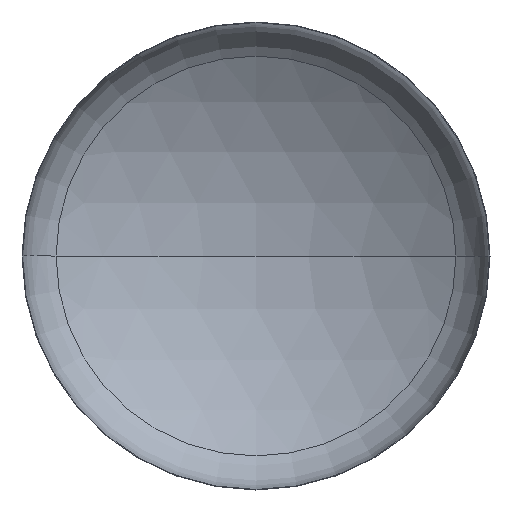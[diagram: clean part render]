
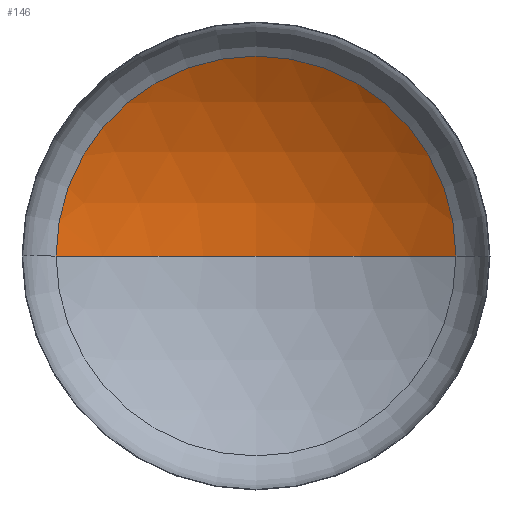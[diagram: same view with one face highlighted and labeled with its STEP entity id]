
A CAD part, front view. The second image highlights one B-rep face of the part: STEP entity #146.
In plain terms, the highlighted spherical face has radius 3040 mm.
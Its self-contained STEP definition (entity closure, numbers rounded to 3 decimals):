
#16 = EDGE_LOOP ( 'NONE', ( #34, #30, #115 ) ) ;
#24 = AXIS2_PLACEMENT_3D ( 'NONE', #267, #56, #216 ) ;
#30 = ORIENTED_EDGE ( 'NONE', *, *, #357, .T. ) ;
#34 = ORIENTED_EDGE ( 'NONE', *, *, #390, .F. ) ;
#35 = AXIS2_PLACEMENT_3D ( 'NONE', #194, #367, #369 ) ;
#56 = DIRECTION ( 'NONE',  ( 0., 0., -1. ) ) ;
#85 = AXIS2_PLACEMENT_3D ( 'NONE', #289, #191, #364 ) ;
#98 = VERTEX_POINT ( 'NONE', #279 ) ;
#115 = ORIENTED_EDGE ( 'NONE', *, *, #354, .T. ) ;
#120 = VERTEX_POINT ( 'NONE', #228 ) ;
#125 = CIRCLE ( 'NONE', #223, 3040. ) ;
#146 = ADVANCED_FACE ( 'NONE', ( #315 ), #308, .F. ) ;
#151 = VERTEX_POINT ( 'NONE', #213 ) ;
#153 = CIRCLE ( 'NONE', #35, 1623.397 ) ;
#191 = DIRECTION ( 'NONE',  ( 0., 0., -1. ) ) ;
#194 = CARTESIAN_POINT ( 'NONE',  ( 0., 514.604, 0. ) ) ;
#213 = CARTESIAN_POINT ( 'NONE',  ( -1623.397, 514.604, 0. ) ) ;
#216 = DIRECTION ( 'NONE',  ( -1., 0., 0. ) ) ;
#222 = DIRECTION ( 'NONE',  ( 0., 0., 1. ) ) ;
#223 = AXIS2_PLACEMENT_3D ( 'NONE', #370, #222, #387 ) ;
#228 = CARTESIAN_POINT ( 'NONE',  ( 1623.397, 514.604, 0. ) ) ;
#267 = CARTESIAN_POINT ( 'NONE',  ( 0., -2055.645, 0. ) ) ;
#279 = CARTESIAN_POINT ( 'NONE',  ( 0., 984.355, 0. ) ) ;
#289 = CARTESIAN_POINT ( 'NONE',  ( 0., -2055.645, 0. ) ) ;
#308 = SPHERICAL_SURFACE ( 'NONE', #85, 3040. ) ;
#315 = FACE_OUTER_BOUND ( 'NONE', #16, .T. ) ;
#354 = EDGE_CURVE ( 'NONE', #120, #151, #153, .T. ) ;
#357 = EDGE_CURVE ( 'NONE', #98, #120, #394, .T. ) ;
#364 = DIRECTION ( 'NONE',  ( -1., 0., 0. ) ) ;
#367 = DIRECTION ( 'NONE',  ( 0., -1., 0. ) ) ;
#369 = DIRECTION ( 'NONE',  ( 1., 0., 0. ) ) ;
#370 = CARTESIAN_POINT ( 'NONE',  ( 0., -2055.645, 0. ) ) ;
#387 = DIRECTION ( 'NONE',  ( 1., 0., 0. ) ) ;
#390 = EDGE_CURVE ( 'NONE', #98, #151, #125, .T. ) ;
#394 = CIRCLE ( 'NONE', #24, 3040. ) ;
